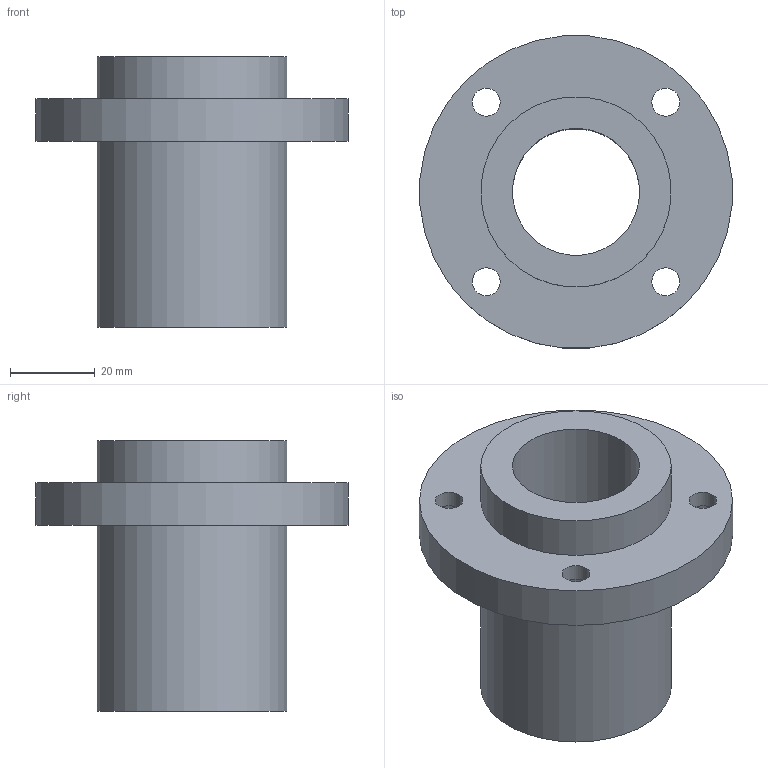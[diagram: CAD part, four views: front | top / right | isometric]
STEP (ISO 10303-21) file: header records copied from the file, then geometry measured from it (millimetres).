
FILE_DESCRIPTION(/* description */ (''),/* implementation_level */ '2;1');
FILE_NAME(/* name */ 'LMFP30UU',/* time_stamp */ '2019-07-03T11:33:25+02:00',/* author */ ('VĂ©gh MĂˇtĂ©'),/* organization */ ('Bearing Kft'),/* preprocessor_version */ 'ST-DEVELOPER v16.7',/* originating_system */ 'DEX',/* authorisation */ $);
FILE_SCHEMA (('AUTOMOTIVE_DESIGN {1 0 10303 214 3 1 1}'));
Length unit declared in the file: millimetre
Products named in the file (1): LMFP30UU
Bounding box: 73.72 x 73.72 x 64 mm (x, y, z)
Volume: 80792.3 mm3; surface area: 24103.3 mm2
Topology: 1 solids, 1 shells, 326 faces, 814 edges, 544 vertices
Faces by surface type: plane 249, bspline 63, cylinder 14
Full cylindrical faces by diameter (mm): 6.6 x4, 11 x4, 30 x1, 45 x2, 74 x1
Entity records: 12899 total; most frequent: CARTESIAN_POINT 5525, ORIENTED_EDGE 1590, DIRECTION 1225, EDGE_CURVE 795, LINE 641, VECTOR 641, VERTEX_POINT 540, EDGE_LOOP 405
